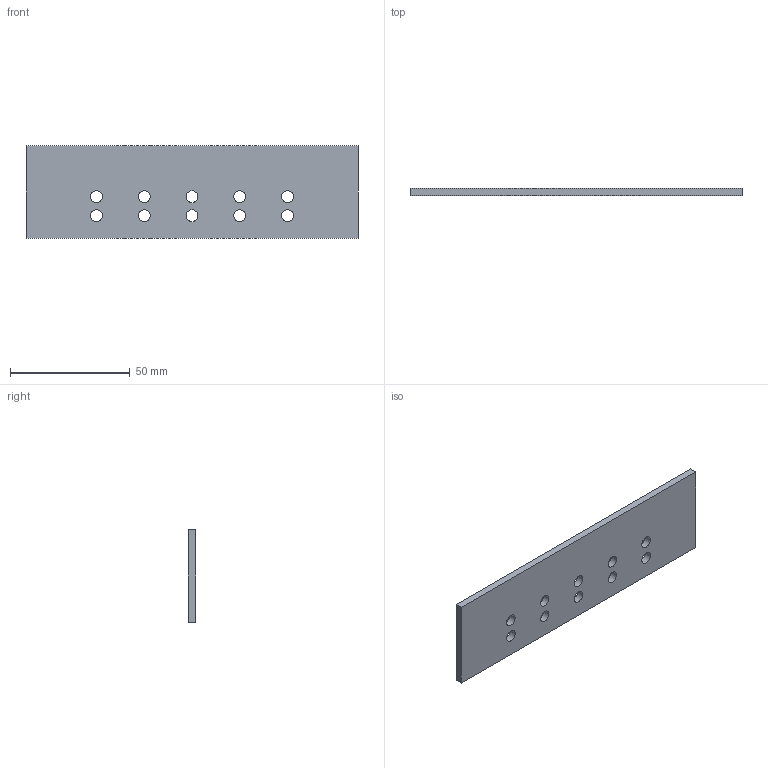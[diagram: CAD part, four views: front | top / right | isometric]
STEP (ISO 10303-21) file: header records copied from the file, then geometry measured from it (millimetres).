
FILE_DESCRIPTION(('Open CASCADE Model'),'2;1');
FILE_NAME('Open CASCADE Shape Model','2026-08-29T07:31:46',('Author'),( 'Open CASCADE'),'Open CASCADE STEP processor 7.9','build123d', 'Unknown');
FILE_SCHEMA(('AUTOMOTIVE_DESIGN { 1 0 10303 214 1 1 1 1 }'));
Length unit declared in the file: millimetre
Products named in the file (2): =>[0:1:1:2]; COMPOUND
Assembly tree (1 placements, depth 2):
  =>[0:1:1:2]
    COMPOUND
Bounding box: 138.9 x 3 x 38.76 mm (x, y, z)
Volume: 15536.3 mm3; surface area: 11909.5 mm2
Topology: 1 solids, 1 shells, 16 faces, 42 edges, 28 vertices
Faces by surface type: cylinder 10, plane 6
Full cylindrical faces by diameter (mm): 5 x10
Entity records: 1120 total; most frequent: DIRECTION 182, CARTESIAN_POINT 172, LINE 86, VECTOR 86, ORIENTED_EDGE 84, PCURVE 84, DEFINITIONAL_REPRESENTATION 84, EDGE_CURVE 42
